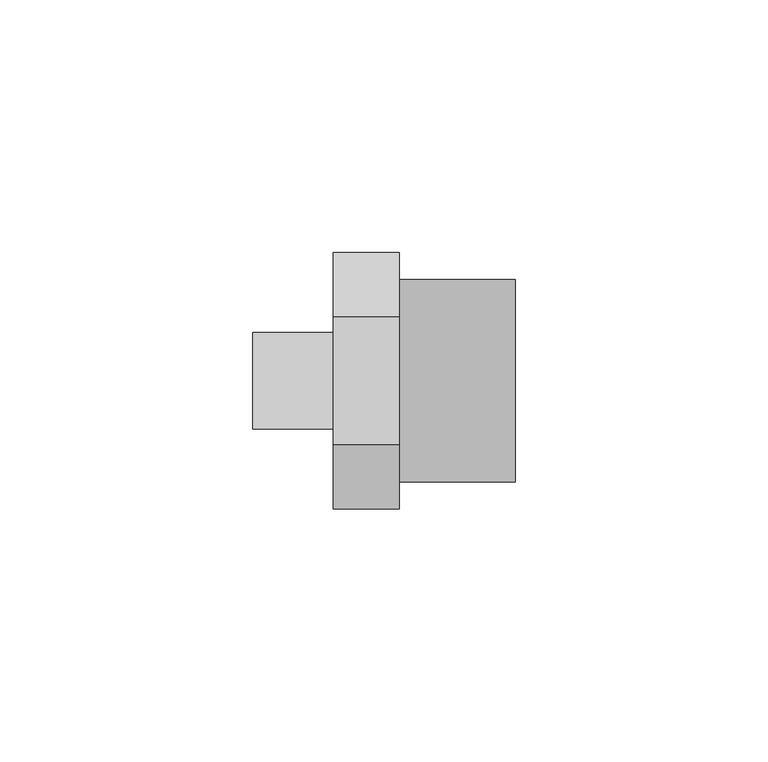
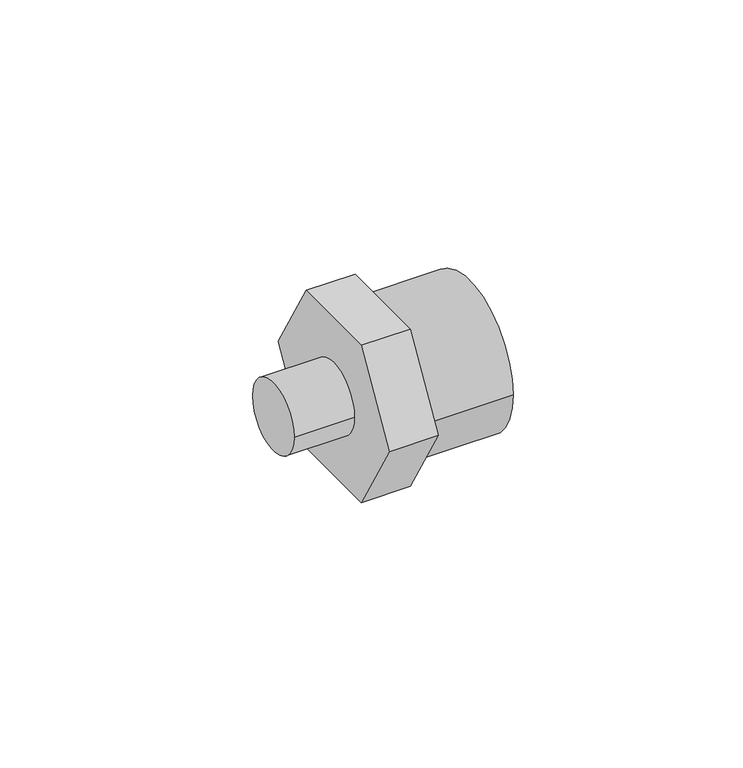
"""IFC4 building model written with IfcOpenShell, lengths in millimetres: pipe fitting geometry, 01101081 : Uniões múltiplas F/M/M."""

from ifc_helpers import new_model, si_unit, point, frame, origin, origin_2d, place, context, project, spatial, polyline, circle_curve, trimmed, segment, composite_curve, outline, extrude, source, transform, mapped, element, save


def pipe_fitting_7ae219f0(model_context):
    return source(origin(), model_context, "Body", "SweptSolid", [
        extrude(outline(composite_curve([segment(trimmed(circle_curve(origin_2d(), 9.525), [point((9.525, 0.0))], [point((-9.525, 0.0))], False, "CARTESIAN"), True, "CONTINUOUS"), segment(trimmed(circle_curve(origin_2d(), 9.525), [point((-9.525, 0.0))], [point((9.525, 0.0))], False, "CARTESIAN"), True, "CONTINUOUS")], self_intersect=False)), frame((0.0, 0.0, 0.0), z_axis=(1.0, 0.0, 0.0), x_axis=(0.0, 1.0, 0.0)), (0.0, 0.0, 1.0), 16.0),
        extrude(outline(polyline([(-12.7017059, 22.0), (12.7017059, 22.0), (25.4034118, 0.0), (12.7017059, -22.0), (-12.7017059, -22.0), (-25.4034118, 0.0), (-12.7017059, 22.0)])), frame((16.0, 0.0, 0.0), z_axis=(1.0, 0.0, 0.0), x_axis=(0.0, 1.0, 0.0)), (0.0, 0.0, 1.0), 13.0),
        extrude(outline(composite_curve([segment(trimmed(circle_curve(origin_2d(), 20.0), [point((-20.0, 0.0))], [point((20.0, 0.0))], False, "CARTESIAN"), True, "CONTINUOUS"), segment(trimmed(circle_curve(origin_2d(), 20.0), [point((20.0, 0.0))], [point((-20.0, 0.0))], False, "CARTESIAN"), True, "CONTINUOUS")], self_intersect=False)), frame((29.0, 0.0, 0.0), z_axis=(1.0, 0.0, 0.0), x_axis=(0.0, 1.0, 0.0)), (0.0, 0.0, 1.0), 23.0),
    ])


if __name__ == "__main__":
    model = new_model("IFC4")
    model_context = context("Model", 3, world=origin())
    ifc_project = project(units=[si_unit("LENGTHUNIT", "METRE", prefix="MILLI")], contexts=[model_context])
    site = spatial("IfcSite", under=ifc_project)
    building = spatial("IfcBuilding", under=site)
    placement = place(None, origin())
    pipe_fitting_shape = pipe_fitting_7ae219f0(model_context)
    element("IfcPipeFitting", 1, ObjectType="01101081 : Uniões múltiplas F/M/M", at=placement, inside=building, context=model_context, shape_type="MappedRepresentation", body=[
        mapped(pipe_fitting_shape, transform((0.0, 0.0, 0.0), x_axis=(1.0, 0.0, 0.0), y_axis=(0.0, 1.0, 0.0), z_axis=(0.0, 0.0, 1.0))),
    ])
    save(model, "model.ifc")
